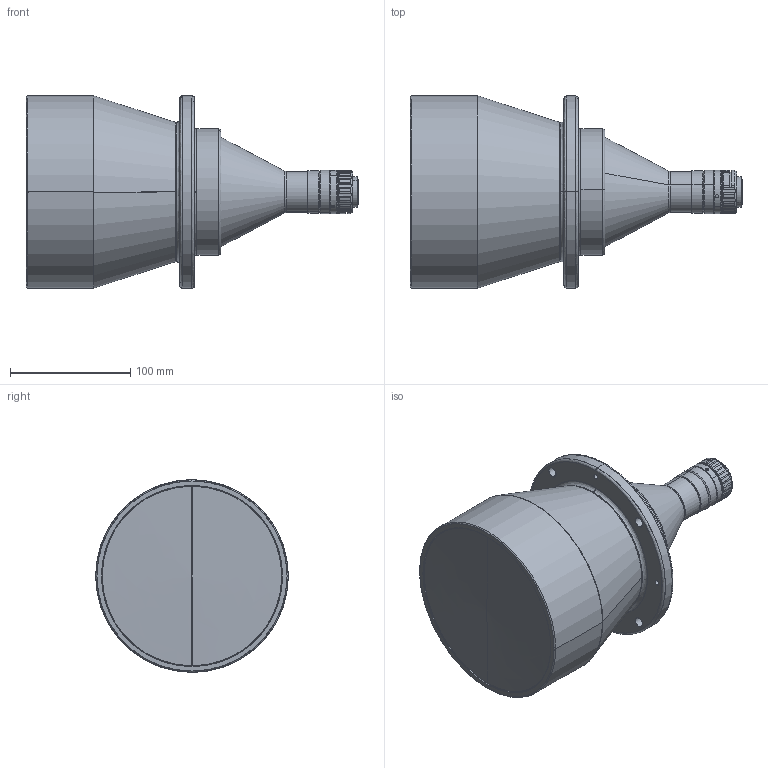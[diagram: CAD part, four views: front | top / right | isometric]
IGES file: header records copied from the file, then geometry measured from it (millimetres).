
Start section: SolidWorks IGES file using analytic representation for surfaces
Bounding box: 276.01 x 160 x 160 mm (x, y, z)
Surface area: 137084.6 mm2 (no closed solid volume)
Topology: 0 solids, 0 shells, 171 faces, 3224 edges, 3218 vertices
Faces by surface type: revolution 135, bspline 36
